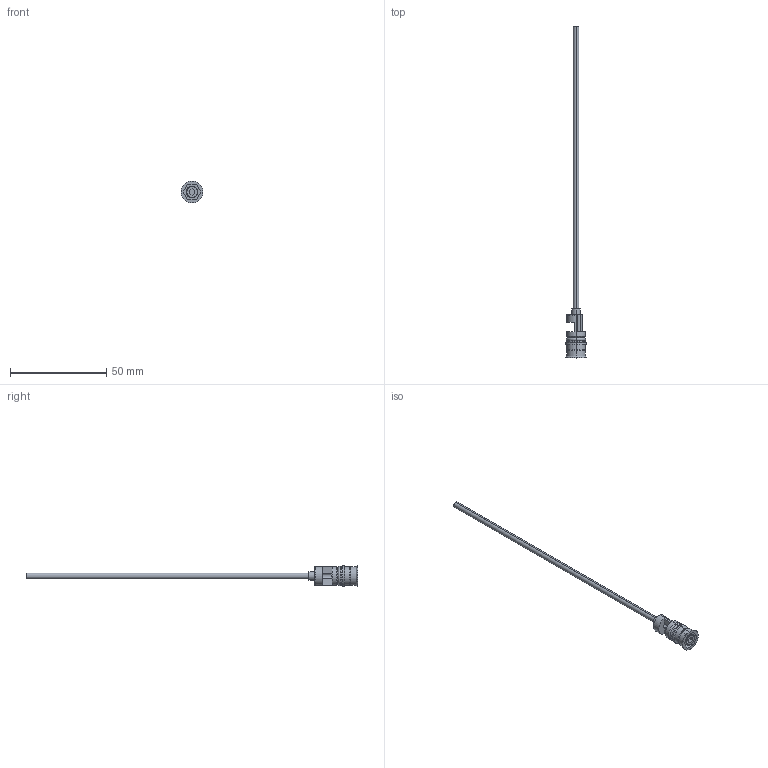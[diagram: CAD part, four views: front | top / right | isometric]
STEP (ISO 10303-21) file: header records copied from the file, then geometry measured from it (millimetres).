
FILE_DESCRIPTION (( 'STEP AP203' ), '1' );
FILE_NAME ('RF-10Fx150-3.STEP', '2015-11-19T16:07:32', ( 'Balzi' ), ( '' ), 'SwSTEP 2.0', 'SolidWorks 2015', '' );
FILE_SCHEMA (( 'CONFIG_CONTROL_DESIGN' ));
Length unit declared in the file: millimetre
Products named in the file (1): RF-10Fx150-3
Bounding box: 11.3 x 172.5 x 11.3 mm (x, y, z)
Volume: 1571 mm3; surface area: 3875.5 mm2
Topology: 1 solids, 1 shells, 71 faces, 164 edges, 102 vertices
Faces by surface type: plane 26, cylinder 25, cone 12, torus 8
Entity records: 2114 total; most frequent: DIRECTION 385, CARTESIAN_POINT 357, ORIENTED_EDGE 328, EDGE_CURVE 164, AXIS2_PLACEMENT_3D 154, VERTEX_POINT 102, CIRCLE 82, EDGE_LOOP 80
